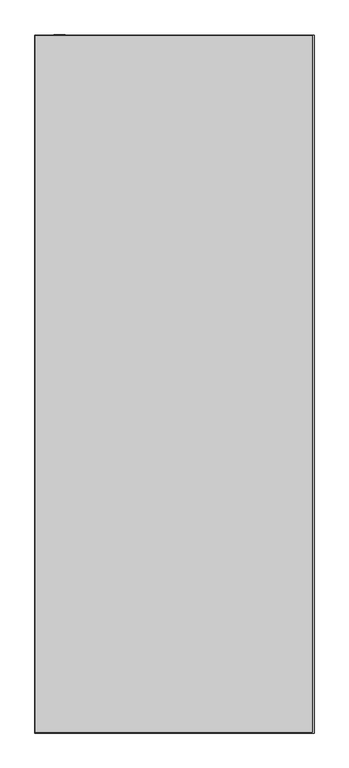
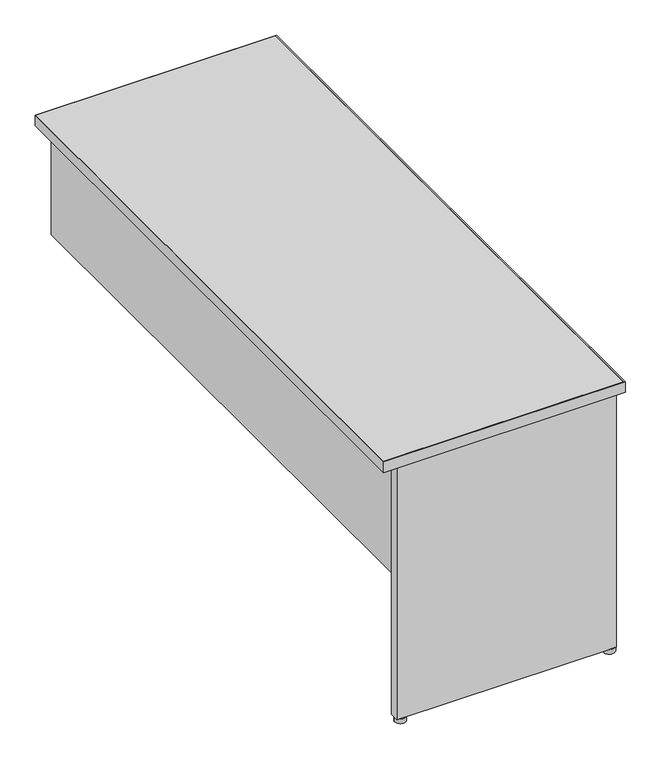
"""IFC4 building model written with IfcOpenShell, lengths in millimetres: furniture geometry, Steelcase - Kick Freestanding - Desk - Return - Partial Height Modesty Panel : 24D x 60W - Left."""

from ifc_helpers import new_model, si_unit, point, frame, frame_2d, origin, origin_with_axes, place, context, project, spatial, polyline, circle_curve, trimmed, segment, composite_curve, outline, extrude, source, transform, mapped, element, save


def furniture_f06aab06(model_context):
    return source(origin(), model_context, "Body", "SweptSolid", [
        extrude(outline(composite_curve([segment(trimmed(circle_curve(frame_2d((2220.2474425, -2045.4145152)), 13.97), [point((2206.2774425, -2045.4145152))], [point((2234.2174425, -2045.4145152))], False, "CARTESIAN"), True, "CONTINUOUS"), segment(trimmed(circle_curve(frame_2d((2220.2474425, -2045.4145152)), 13.97), [point((2234.2174425, -2045.4145152))], [point((2206.2774425, -2045.4145152))], False, "CARTESIAN"), True, "CONTINUOUS")], self_intersect=False)), origin_with_axes(), (0.0, 0.0, 1.0), 12.7),
        extrude(outline(composite_curve([segment(trimmed(circle_curve(frame_2d((2748.0594425, -2045.4145152)), 13.97), [point((2734.0894425, -2045.4145152))], [point((2762.0294425, -2045.4145152))], False, "CARTESIAN"), True, "CONTINUOUS"), segment(trimmed(circle_curve(frame_2d((2748.0594425, -2045.4145152)), 13.97), [point((2762.0294425, -2045.4145152))], [point((2734.0894425, -2045.4145152))], False, "CARTESIAN"), True, "CONTINUOUS")], self_intersect=False)), origin_with_axes(), (0.0, 0.0, 1.0), 12.7),
        extrude(outline(polyline([(2205.0074425, -2032.8669152), (2328.2736437, -2032.8669152), (2328.2736437, -2055.2951136), (2427.9940467, -2055.2951136), (2427.9940467, -2032.8669041), (2536.7314502, -2032.8669041), (2536.7314502, -2055.2951136), (2636.4518532, -2055.2951136), (2636.4518532, -2032.8669041), (2759.4894376, -2032.8669041), (2759.4894376, -2057.3525098), (2205.0074425, -2057.3525098), (2205.0074425, -2032.8669152)])), frame((0.0, 0.0, 12.7), z_axis=(0.0, 0.0, 1.0), x_axis=(1.0, 0.0, 0.0)), (0.0, 0.0, 1.0), 682.244),
        extrude(outline(polyline([(2230.4074426, -546.0525152), (2230.4074426, -2032.8669152), (2205.0074425, -2032.8669152), (2205.0074425, -546.0525152), (2230.4074426, -546.0525152)])), frame((0.0, 0.0, 390.144), z_axis=(0.0, 0.0, 1.0), x_axis=(1.0, 0.0, 0.0)), (0.0, 0.0, 1.0), 304.8),
        extrude(outline(polyline([(2769.2176592, -548.0845152), (2769.2176592, -2069.5445152), (2164.8500425, -2069.5445152), (2164.8500425, -548.0845152), (2769.2176592, -548.0845152)])), frame((0.0, 0.0, 694.944), z_axis=(0.0, 0.0, 1.0), x_axis=(1.0, 0.0, 0.0)), (0.0, 0.0, 1.0), 28.956),
        extrude(outline(polyline([(2773.4594425, -546.8145152), (2773.4594425, -2070.8145152), (2163.8594425, -2070.8145152), (2163.8594425, -546.8145152), (2773.4594425, -546.8145152)]), holes=[polyline([(2769.2176592, -548.0845152), (2164.8500425, -548.0845152), (2164.8500425, -2069.5445152), (2769.2176592, -2069.5445152), (2769.2176592, -548.0845152)])]), frame((0.0, 0.0, 694.944), z_axis=(0.0, 0.0, 1.0), x_axis=(1.0, 0.0, 0.0)), (0.0, 0.0, 1.0), 28.956),
    ])


if __name__ == "__main__":
    model = new_model("IFC4")
    model_context = context("Model", 3, world=origin())
    ifc_project = project(units=[si_unit("LENGTHUNIT", "METRE", prefix="MILLI")], contexts=[model_context])
    site = spatial("IfcSite", under=ifc_project)
    building = spatial("IfcBuilding", under=site)
    placement = place(None, origin())
    furniture_shape = furniture_f06aab06(model_context)
    element("IfcFurniture", 1, ObjectType="Steelcase - Kick Freestanding - Desk - Return - Partial Height Modesty Panel : 24D x 60W - Left", at=placement, inside=building, context=model_context, shape_type="MappedRepresentation", body=[
        mapped(furniture_shape, transform((0.0, 0.0, 0.0), x_axis=(1.0, 0.0, 0.0), y_axis=(0.0, 1.0, 0.0), z_axis=(0.0, 0.0, 1.0))),
    ])
    save(model, "model.ifc")
